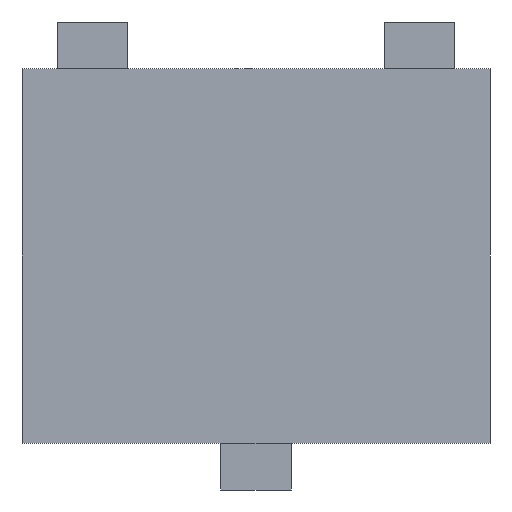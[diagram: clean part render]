
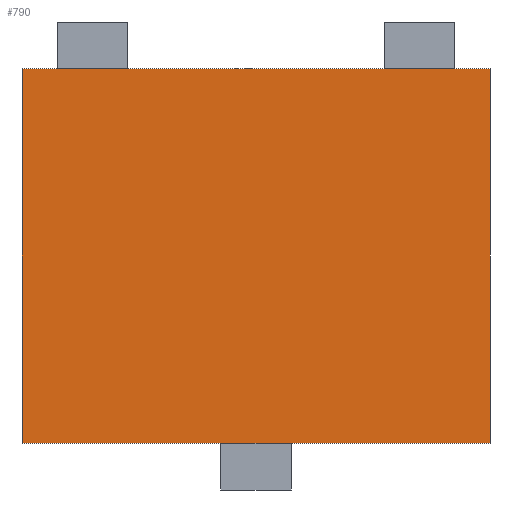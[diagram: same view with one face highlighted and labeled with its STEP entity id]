
A CAD part, front view. The second image highlights one B-rep face of the part: STEP entity #790.
In plain terms, the highlighted planar face has unit normal (0, -1, 0).
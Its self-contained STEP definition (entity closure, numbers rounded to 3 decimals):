
#607 = CARTESIAN_POINT ( 'NONE',  ( -0.5, 0., 0.4 ) ) ;
#608 = VERTEX_POINT ( 'NONE', #607 ) ;
#623 = CARTESIAN_POINT ( 'NONE',  ( -0.5, 0., -0.4 ) ) ;
#624 = VERTEX_POINT ( 'NONE', #623 ) ;
#631 = CARTESIAN_POINT ( 'NONE',  ( -0.5, 0., 0.4 ) ) ;
#632 = DIRECTION ( 'NONE',  ( 0., 0., 1. ) ) ;
#633 = VECTOR ( 'NONE', #632, 1000. ) ;
#634 = LINE ( 'NONE', #631, #633 ) ;
#635 = EDGE_CURVE ( 'NONE', #624, #608, #634, .T. ) ;
#647 = CARTESIAN_POINT ( 'NONE',  ( 0.5, 0., 0.4 ) ) ;
#648 = VERTEX_POINT ( 'NONE', #647 ) ;
#662 = CARTESIAN_POINT ( 'NONE',  ( 0.5, 0., 0.4 ) ) ;
#663 = DIRECTION ( 'NONE',  ( 1., 0., 0. ) ) ;
#664 = VECTOR ( 'NONE', #663, 1000. ) ;
#665 = LINE ( 'NONE', #662, #664 ) ;
#666 = EDGE_CURVE ( 'NONE', #608, #648, #665, .T. ) ;
#678 = CARTESIAN_POINT ( 'NONE',  ( 0.5, 0., -0.4 ) ) ;
#679 = VERTEX_POINT ( 'NONE', #678 ) ;
#693 = CARTESIAN_POINT ( 'NONE',  ( 0.5, 0., 0.4 ) ) ;
#694 = DIRECTION ( 'NONE',  ( 0., 0., -1. ) ) ;
#695 = VECTOR ( 'NONE', #694, 1000. ) ;
#696 = LINE ( 'NONE', #693, #695 ) ;
#697 = EDGE_CURVE ( 'NONE', #648, #679, #696, .T. ) ;
#715 = CARTESIAN_POINT ( 'NONE',  ( 0.5, 0., -0.4 ) ) ;
#716 = DIRECTION ( 'NONE',  ( -1., 0., 0. ) ) ;
#717 = VECTOR ( 'NONE', #716, 1000. ) ;
#718 = LINE ( 'NONE', #715, #717 ) ;
#719 = EDGE_CURVE ( 'NONE', #679, #624, #718, .T. ) ;
#779 = ORIENTED_EDGE ( 'NONE', *, *, #635, .F. ) ;
#780 = ORIENTED_EDGE ( 'NONE', *, *, #719, .F. ) ;
#781 = ORIENTED_EDGE ( 'NONE', *, *, #697, .F. ) ;
#782 = ORIENTED_EDGE ( 'NONE', *, *, #666, .F. ) ;
#783 = EDGE_LOOP ( 'NONE', ( #779, #780, #781, #782 ) ) ;
#784 = FACE_OUTER_BOUND ( 'NONE', #783, .T. ) ;
#785 = CARTESIAN_POINT ( 'NONE',  ( -0.5, 0., -0.4 ) ) ;
#786 = DIRECTION ( 'NONE',  ( 0., 1., 0. ) ) ;
#787 = DIRECTION ( 'NONE',  ( 0., 0., 1. ) ) ;
#788 = AXIS2_PLACEMENT_3D ( 'NONE', #785, #786, #787 ) ;
#789 = PLANE ( 'NONE', #788 ) ;
#790 = ADVANCED_FACE ( 'NONE', ( #784 ), #789, .F. ) ;
